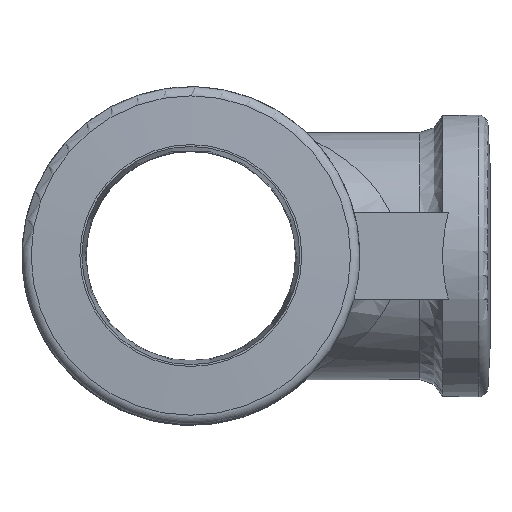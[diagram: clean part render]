
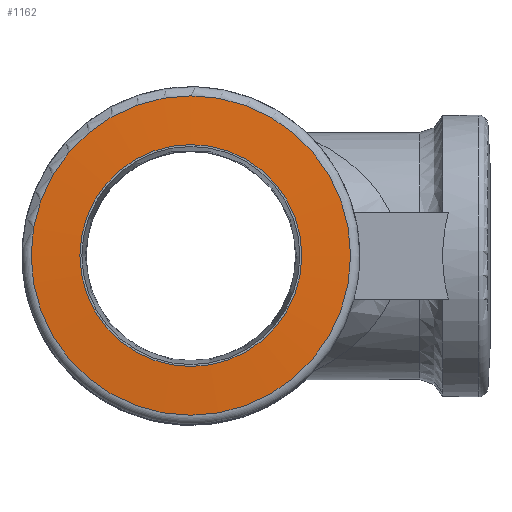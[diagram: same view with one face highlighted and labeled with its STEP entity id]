
A CAD part, top view. The second image highlights one B-rep face of the part: STEP entity #1162.
In plain terms, the highlighted conical face has half-angle 87 degrees and reference radius 14.5 mm.
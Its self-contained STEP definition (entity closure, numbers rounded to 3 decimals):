
#1131=CARTESIAN_POINT('',(16.552,0.,29.735));
#1132=VERTEX_POINT('',#1131);
#1133=CARTESIAN_POINT('',(0.0,0.,29.735));
#1134=DIRECTION('',(0.0,0.0,-1.0));
#1135=DIRECTION('',(-1.0,0.0,0.0));
#1136=AXIS2_PLACEMENT_3D('',#1133,#1134,#1135);
#1137=CIRCLE('',#1136,16.552);
#1138=EDGE_CURVE('',#1132,#1132,#1137,.T.);
#1143=CARTESIAN_POINT('',(0.0,0.0,29.843));
#1144=DIRECTION('',(0.0,0.0,-1.0));
#1145=DIRECTION('',(-1.0,0.0,0.0));
#1146=AXIS2_PLACEMENT_3D('',#1143,#1144,#1145);
#1147=CONICAL_SURFACE('',#1146,14.5,87.);
#1148=CARTESIAN_POINT('',(11.5,0.,30.0));
#1149=VERTEX_POINT('',#1148);
#1150=CARTESIAN_POINT('',(0.0,0.0,30.0));
#1151=DIRECTION('',(0.0,0.0,-1.0));
#1152=DIRECTION('',(-1.0,0.0,0.0));
#1153=AXIS2_PLACEMENT_3D('',#1150,#1151,#1152);
#1154=CIRCLE('',#1153,11.5);
#1155=EDGE_CURVE('',#1149,#1149,#1154,.T.);
#1156=ORIENTED_EDGE('',*,*,#1155,.T.);
#1157=EDGE_LOOP('',(#1156));
#1158=FACE_OUTER_BOUND('',#1157,.T.);
#1159=ORIENTED_EDGE('',*,*,#1138,.F.);
#1160=EDGE_LOOP('',(#1159));
#1161=FACE_BOUND('',#1160,.T.);
#1162=ADVANCED_FACE('',(#1158,#1161),#1147,.T.);
